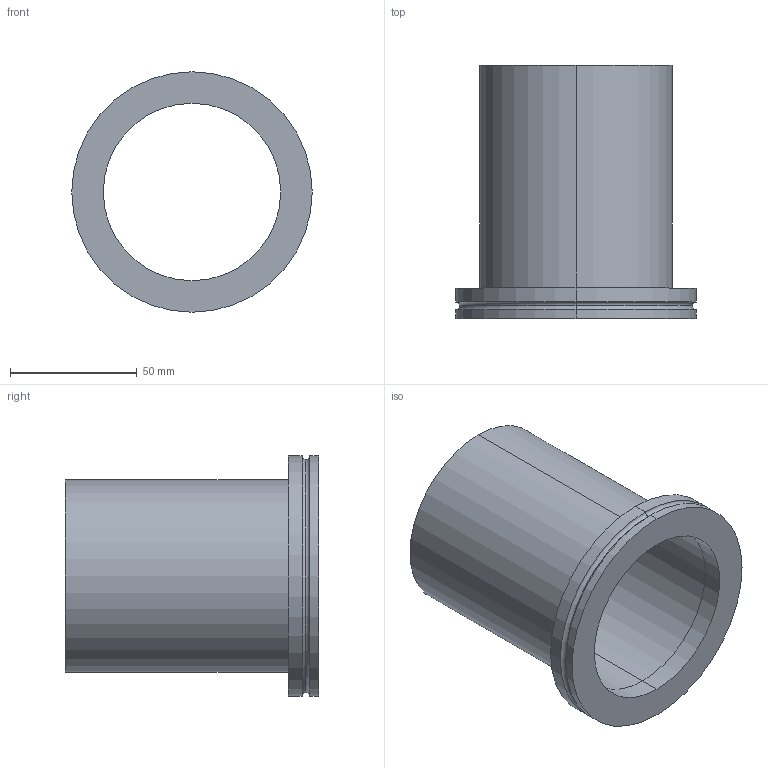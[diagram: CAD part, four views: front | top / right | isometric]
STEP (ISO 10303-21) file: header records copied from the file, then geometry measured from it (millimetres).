
FILE_DESCRIPTION (( 'STEP AP214' ), '1' );
FILE_NAME ('W4KR63.STEP', '2019-04-05T08:22:54', ( '' ), ( '' ), 'SwSTEP 2.0', 'SolidWorks 2018', '' );
FILE_SCHEMA (( 'AUTOMOTIVE_DESIGN' ));
Length unit declared in the file: millimetre
Products named in the file (1): W4KR63
Bounding box: 95 x 100 x 95 mm (x, y, z)
Volume: 94421.2 mm3; surface area: 56967 mm2
Topology: 2 solids, 2 shells, 24 faces, 48 edges, 30 vertices
Faces by surface type: cylinder 14, plane 6, torus 4
Entity records: 689 total; most frequent: DIRECTION 132, CARTESIAN_POINT 103, ORIENTED_EDGE 96, AXIS2_PLACEMENT_3D 59, EDGE_CURVE 48, CIRCLE 34, EDGE_LOOP 30, VERTEX_POINT 30
